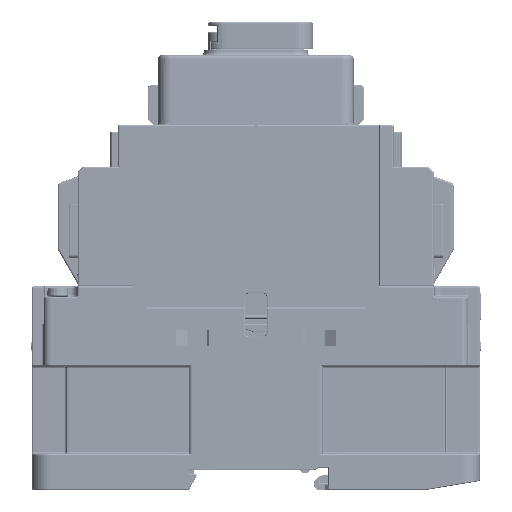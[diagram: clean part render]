
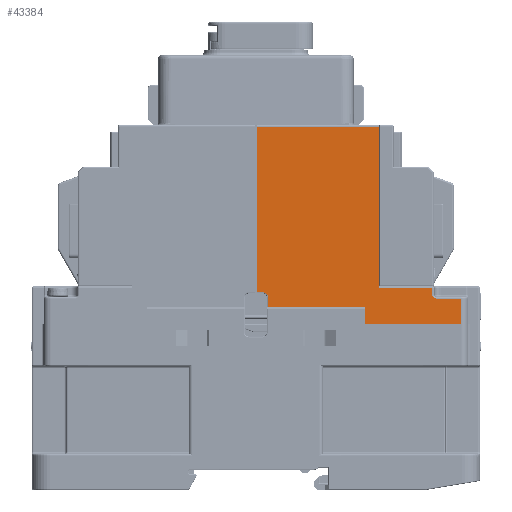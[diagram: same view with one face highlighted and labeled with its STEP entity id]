
A CAD part, front view. The second image highlights one B-rep face of the part: STEP entity #43384.
In plain terms, the highlighted planar face has unit normal (0, -1, 0).
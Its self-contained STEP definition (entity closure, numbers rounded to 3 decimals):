
#26683=FACE_OUTER_BOUND('',#81263,.T.);
#43384=ADVANCED_FACE('',(#26683),#54935,.F.);
#54935=PLANE('',#309910);
#64403=CIRCLE('',#309908,1.3);
#64404=CIRCLE('',#309909,1.);
#81263=EDGE_LOOP('',(#142528,#142529,#142530,#142531,#142532,#142533,#142534,
#142535,#142536,#142537,#142538,#142539,#142540,#142541));
#142528=ORIENTED_EDGE('',*,*,#227213,.T.);
#142529=ORIENTED_EDGE('',*,*,#227214,.F.);
#142530=ORIENTED_EDGE('',*,*,#227215,.T.);
#142531=ORIENTED_EDGE('',*,*,#227216,.F.);
#142532=ORIENTED_EDGE('',*,*,#227217,.T.);
#142533=ORIENTED_EDGE('',*,*,#227218,.T.);
#142534=ORIENTED_EDGE('',*,*,#227219,.T.);
#142535=ORIENTED_EDGE('',*,*,#227220,.F.);
#142536=ORIENTED_EDGE('',*,*,#227221,.T.);
#142537=ORIENTED_EDGE('',*,*,#226854,.F.);
#142538=ORIENTED_EDGE('',*,*,#227222,.T.);
#142539=ORIENTED_EDGE('',*,*,#227223,.T.);
#142540=ORIENTED_EDGE('',*,*,#227224,.F.);
#142541=ORIENTED_EDGE('',*,*,#227225,.T.);
#190193=VERTEX_POINT('',#512389);
#190194=VERTEX_POINT('',#512391);
#190459=VERTEX_POINT('',#513082);
#190460=VERTEX_POINT('',#513083);
#190461=VERTEX_POINT('',#513085);
#190462=VERTEX_POINT('',#513087);
#190463=VERTEX_POINT('',#513089);
#190464=VERTEX_POINT('',#513091);
#190465=VERTEX_POINT('',#513093);
#190466=VERTEX_POINT('',#513095);
#190467=VERTEX_POINT('',#513097);
#190468=VERTEX_POINT('',#513100);
#190469=VERTEX_POINT('',#513102);
#190470=VERTEX_POINT('',#513104);
#226854=EDGE_CURVE('',#190193,#190194,#258203,.T.);
#227213=EDGE_CURVE('',#190459,#190460,#258464,.T.);
#227214=EDGE_CURVE('',#190461,#190460,#258465,.T.);
#227215=EDGE_CURVE('',#190461,#190462,#258466,.T.);
#227216=EDGE_CURVE('',#190463,#190462,#258467,.T.);
#227217=EDGE_CURVE('',#190463,#190464,#258468,.T.);
#227218=EDGE_CURVE('',#190464,#190465,#64403,.T.);
#227219=EDGE_CURVE('',#190465,#190466,#258469,.T.);
#227220=EDGE_CURVE('',#190467,#190466,#258470,.T.);
#227221=EDGE_CURVE('',#190467,#190194,#258471,.T.);
#227222=EDGE_CURVE('',#190193,#190468,#258472,.T.);
#227223=EDGE_CURVE('',#190468,#190469,#258473,.T.);
#227224=EDGE_CURVE('',#190470,#190469,#64404,.T.);
#227225=EDGE_CURVE('',#190470,#190459,#258474,.T.);
#258203=LINE('',#512390,#283412);
#258464=LINE('',#513081,#283673);
#258465=LINE('',#513084,#283674);
#258466=LINE('',#513086,#283675);
#258467=LINE('',#513088,#283676);
#258468=LINE('',#513090,#283677);
#258469=LINE('',#513094,#283678);
#258470=LINE('',#513096,#283679);
#258471=LINE('',#513098,#283680);
#258472=LINE('',#513099,#283681);
#258473=LINE('',#513101,#283682);
#258474=LINE('',#513105,#283683);
#283412=VECTOR('',#372610,1.);
#283673=VECTOR('',#373201,1.);
#283674=VECTOR('',#373202,1.);
#283675=VECTOR('',#373203,1.);
#283676=VECTOR('',#373204,1.);
#283677=VECTOR('',#373205,1.);
#283678=VECTOR('',#373208,1.);
#283679=VECTOR('',#373209,1.);
#283680=VECTOR('',#373210,1.);
#283681=VECTOR('',#373211,1.);
#283682=VECTOR('',#373212,1.);
#283683=VECTOR('',#373215,1.);
#309908=AXIS2_PLACEMENT_3D('',#513092,#373206,#373207);
#309909=AXIS2_PLACEMENT_3D('',#513103,#373213,#373214);
#309910=AXIS2_PLACEMENT_3D('',#513106,#373216,#373217);
#372610=DIRECTION('',(-1.,0.,0.));
#373201=DIRECTION('',(-1.,0.,0.));
#373202=DIRECTION('',(0.,0.,-1.));
#373203=DIRECTION('',(-1.,0.,0.));
#373204=DIRECTION('',(0.,0.,1.));
#373205=DIRECTION('',(1.,0.,0.));
#373206=DIRECTION('',(0.,1.,0.));
#373207=DIRECTION('',(0.,0.,-1.));
#373208=DIRECTION('',(0.,0.,-1.));
#373209=DIRECTION('',(-1.,0.,0.));
#373210=DIRECTION('',(0.,0.,-1.));
#373211=DIRECTION('',(0.,0.,1.));
#373212=DIRECTION('',(-1.,0.,0.));
#373213=DIRECTION('',(0.,-1.,0.));
#373214=DIRECTION('',(0.,0.,-1.));
#373215=DIRECTION('',(0.,0.,1.));
#373216=DIRECTION('',(0.,1.,0.));
#373217=DIRECTION('',(0.,0.,1.));
#512389=CARTESIAN_POINT('',(-35.807,6.599,-312.288));
#512390=CARTESIAN_POINT('',(-93.707,6.599,-312.288));
#512391=CARTESIAN_POINT('',(-62.207,6.599,-312.288));
#513081=CARTESIAN_POINT('',(-58.207,6.599,-302.388));
#513082=CARTESIAN_POINT('',(-43.607,6.599,-302.388));
#513083=CARTESIAN_POINT('',(-58.207,6.599,-302.388));
#513084=CARTESIAN_POINT('',(-58.207,6.599,-293.888));
#513085=CARTESIAN_POINT('',(-58.207,6.599,-257.888));
#513086=CARTESIAN_POINT('',(-92.007,6.599,-257.888));
#513087=CARTESIAN_POINT('',(-92.107,6.599,-257.888));
#513088=CARTESIAN_POINT('',(-92.107,6.599,-469.888));
#513089=CARTESIAN_POINT('',(-92.107,6.599,-303.588));
#513090=CARTESIAN_POINT('',(-92.207,6.599,-303.588));
#513091=CARTESIAN_POINT('',(-90.307,6.599,-303.588));
#513092=CARTESIAN_POINT('',(-90.307,6.599,-304.888));
#513093=CARTESIAN_POINT('',(-89.007,6.599,-304.888));
#513094=CARTESIAN_POINT('',(-89.007,6.599,-293.888));
#513095=CARTESIAN_POINT('',(-89.007,6.599,-307.738));
#513096=CARTESIAN_POINT('',(-56.607,6.599,-307.738));
#513097=CARTESIAN_POINT('',(-62.207,6.599,-307.738));
#513098=CARTESIAN_POINT('',(-62.207,6.599,-293.888));
#513099=CARTESIAN_POINT('',(-35.807,6.599,-302.788));
#513100=CARTESIAN_POINT('',(-35.807,6.599,-305.288));
#513101=CARTESIAN_POINT('',(-43.007,6.599,-305.288));
#513102=CARTESIAN_POINT('',(-42.607,6.599,-305.288));
#513103=CARTESIAN_POINT('',(-42.607,6.599,-304.288));
#513104=CARTESIAN_POINT('',(-43.607,6.599,-304.288));
#513105=CARTESIAN_POINT('',(-43.607,6.599,-293.888));
#513106=CARTESIAN_POINT('',(-92.207,6.599,-293.888));
